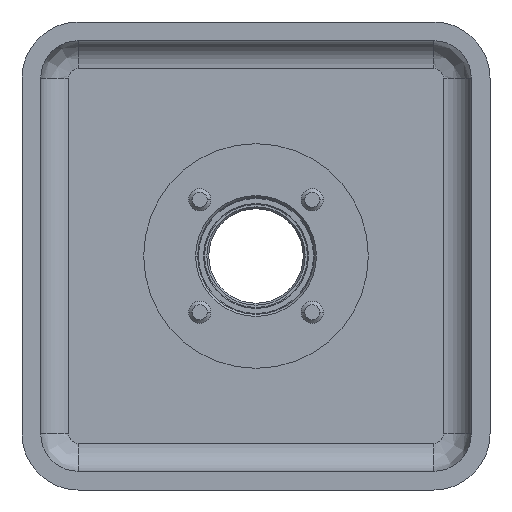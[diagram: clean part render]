
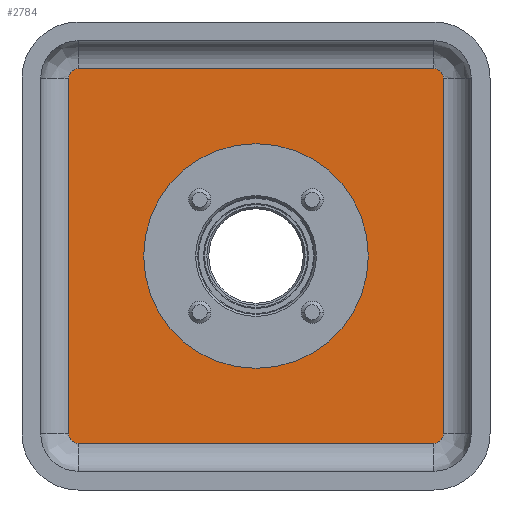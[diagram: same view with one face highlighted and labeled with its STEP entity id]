
A CAD part, front view. The second image highlights one B-rep face of the part: STEP entity #2784.
In plain terms, the highlighted planar face has unit normal (0, -1, 0).
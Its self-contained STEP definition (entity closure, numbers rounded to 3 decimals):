
#934=CARTESIAN_POINT('',(0.,-2.5,0.));
#935=DIRECTION('',(0.,-1.,0.));
#936=DIRECTION('',(1.,0.,0.));
#937=AXIS2_PLACEMENT_3D('',#934,#935,#936);
#942=CARTESIAN_POINT('',(0.,-2.5,0.));
#943=DIRECTION('',(0.,-1.,0.));
#944=DIRECTION('',(-1.,0.,0.));
#945=AXIS2_PLACEMENT_3D('',#942,#943,#944);
#950=CARTESIAN_POINT('',(-9.5,-2.5,9.5));
#951=DIRECTION('',(0.,-1.,0.));
#952=DIRECTION('',(0.,0.,1.));
#953=AXIS2_PLACEMENT_3D('',#950,#951,#952);
#958=DIRECTION('',(-1.,0.,0.));
#959=VECTOR('',#958,19.);
#960=CARTESIAN_POINT('',(9.5,-2.5,10.));
#961=LINE('',#960,#959);
#965=CARTESIAN_POINT('',(9.5,-2.5,9.5));
#966=DIRECTION('',(0.,-1.,0.));
#967=DIRECTION('',(1.,0.,0.));
#968=AXIS2_PLACEMENT_3D('',#965,#966,#967);
#973=DIRECTION('',(0.,0.,1.));
#974=VECTOR('',#973,19.);
#975=CARTESIAN_POINT('',(10.,-2.5,-9.5));
#976=LINE('',#975,#974);
#980=CARTESIAN_POINT('',(9.5,-2.5,-9.5));
#981=DIRECTION('',(0.,-1.,0.));
#982=DIRECTION('',(0.,0.,-1.));
#983=AXIS2_PLACEMENT_3D('',#980,#981,#982);
#988=DIRECTION('',(1.,0.,0.));
#989=VECTOR('',#988,19.);
#990=CARTESIAN_POINT('',(-9.5,-2.5,-10.));
#991=LINE('',#990,#989);
#995=CARTESIAN_POINT('',(-9.5,-2.5,-9.5));
#996=DIRECTION('',(0.,-1.,0.));
#997=DIRECTION('',(-1.,0.,0.));
#998=AXIS2_PLACEMENT_3D('',#995,#996,#997);
#1003=DIRECTION('',(0.,0.,-1.));
#1004=VECTOR('',#1003,19.);
#1005=CARTESIAN_POINT('',(-10.,-2.5,9.5));
#1006=LINE('',#1005,#1004);
#1820=CARTESIAN_POINT('',(6.,-2.5,0.));
#1821=CARTESIAN_POINT('',(-6.,-2.5,0.));
#1822=VERTEX_POINT('',#1820);
#1823=VERTEX_POINT('',#1821);
#1828=CARTESIAN_POINT('',(-9.5,-2.5,10.));
#1829=CARTESIAN_POINT('',(-10.,-2.5,9.5));
#1830=VERTEX_POINT('',#1828);
#1831=VERTEX_POINT('',#1829);
#1834=CARTESIAN_POINT('',(-10.,-2.5,-9.5));
#1835=VERTEX_POINT('',#1834);
#1838=CARTESIAN_POINT('',(-9.5,-2.5,-10.));
#1839=VERTEX_POINT('',#1838);
#1842=CARTESIAN_POINT('',(9.5,-2.5,-10.));
#1843=VERTEX_POINT('',#1842);
#1846=CARTESIAN_POINT('',(10.,-2.5,-9.5));
#1847=VERTEX_POINT('',#1846);
#1850=CARTESIAN_POINT('',(10.,-2.5,9.5));
#1851=VERTEX_POINT('',#1850);
#1854=CARTESIAN_POINT('',(9.5,-2.5,10.));
#1855=VERTEX_POINT('',#1854);
#2763=CARTESIAN_POINT('',(0.,-2.5,0.));
#2764=DIRECTION('',(0.,-1.,0.));
#2765=DIRECTION('',(-1.,0.,0.));
#2766=AXIS2_PLACEMENT_3D('',#2763,#2764,#2765);
#2767=PLANE('',#2766);
#2768=ORIENTED_EDGE('',*,*,#2610,.F.);
#2769=ORIENTED_EDGE('',*,*,#2651,.F.);
#2770=ORIENTED_EDGE('',*,*,#2678,.F.);
#2771=ORIENTED_EDGE('',*,*,#2719,.F.);
#2772=ORIENTED_EDGE('',*,*,#2745,.F.);
#2773=ORIENTED_EDGE('',*,*,#2514,.F.);
#2774=ORIENTED_EDGE('',*,*,#2542,.F.);
#2775=ORIENTED_EDGE('',*,*,#2583,.F.);
#2776=EDGE_LOOP('',(#2768,#2769,#2770,#2771,#2772,#2773,#2774,#2775));
#2777=FACE_OUTER_BOUND('',#2776,.F.);
#2779=ORIENTED_EDGE('',*,*,#2778,.T.);
#2781=ORIENTED_EDGE('',*,*,#2780,.T.);
#2782=EDGE_LOOP('',(#2779,#2781));
#2783=FACE_BOUND('',#2782,.F.);
#938=CIRCLE('',#937,6.);
#946=CIRCLE('',#945,6.);
#954=CIRCLE('',#953,0.5);
#969=CIRCLE('',#968,0.5);
#984=CIRCLE('',#983,0.5);
#999=CIRCLE('',#998,0.5);
#2514=EDGE_CURVE('',#1839,#1843,#991,.T.);
#2542=EDGE_CURVE('',#1835,#1839,#999,.T.);
#2583=EDGE_CURVE('',#1831,#1835,#1006,.T.);
#2610=EDGE_CURVE('',#1830,#1831,#954,.T.);
#2651=EDGE_CURVE('',#1855,#1830,#961,.T.);
#2678=EDGE_CURVE('',#1851,#1855,#969,.T.);
#2719=EDGE_CURVE('',#1847,#1851,#976,.T.);
#2745=EDGE_CURVE('',#1843,#1847,#984,.T.);
#2778=EDGE_CURVE('',#1822,#1823,#938,.T.);
#2780=EDGE_CURVE('',#1823,#1822,#946,.T.);
#2784=ADVANCED_FACE('',(#2777,#2783),#2767,.T.);
